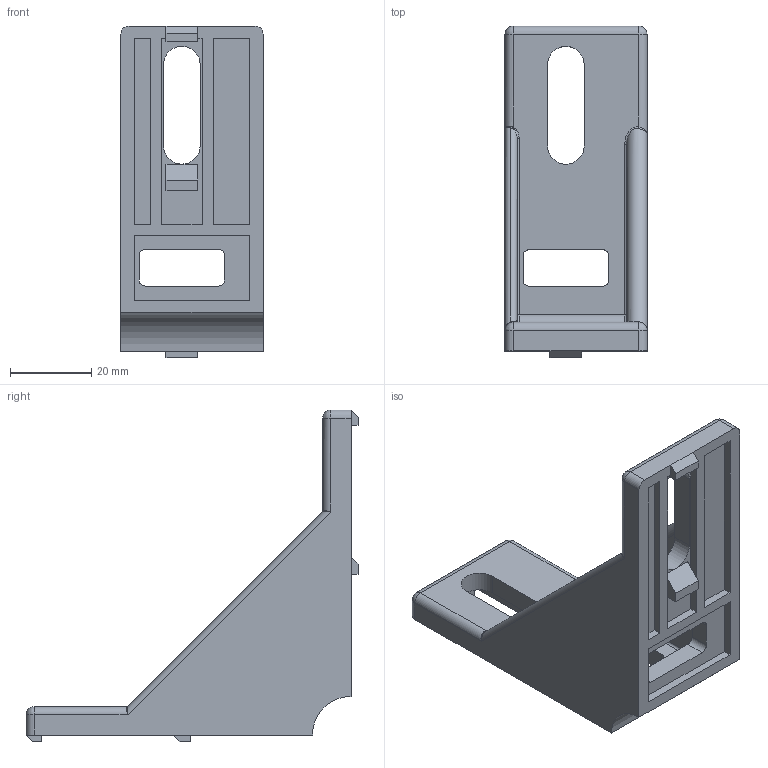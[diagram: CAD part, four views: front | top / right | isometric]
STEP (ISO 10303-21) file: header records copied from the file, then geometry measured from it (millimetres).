
FILE_DESCRIPTION (( 'STEP AP203' ), '1' );
FILE_NAME ('DCB4080-8.STEP', '2018-09-12T07:19:51', ( '' ), ( '' ), 'SwSTEP 2.0', 'SolidWorks 2012', '' );
FILE_SCHEMA (( 'CONFIG_CONTROL_DESIGN' ));
Length unit declared in the file: millimetre
Products named in the file (1): DCB4080-8
Bounding box: 35 x 81.7 x 81.7 mm (x, y, z)
Volume: 33862.4 mm3; surface area: 18354.8 mm2
Topology: 1 solids, 1 shells, 131 faces, 343 edges, 212 vertices
Faces by surface type: plane 84, cylinder 32, bspline 9, sphere 4, torus 2
Entity records: 4358 total; most frequent: CARTESIAN_POINT 1130, ORIENTED_EDGE 670, DIRECTION 624, EDGE_CURVE 335, VECTOR 252, LINE 252, VERTEX_POINT 212, AXIS2_PLACEMENT_3D 186
